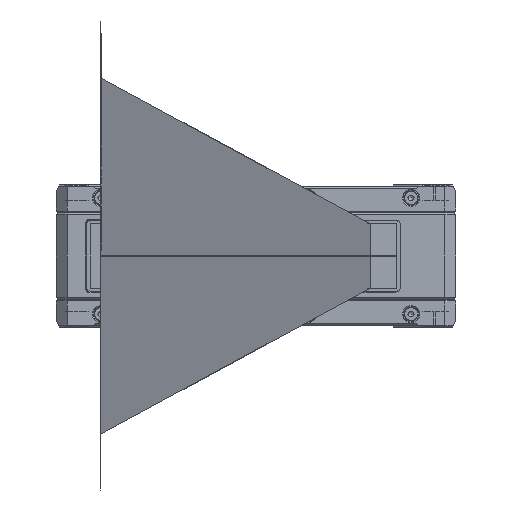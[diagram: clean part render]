
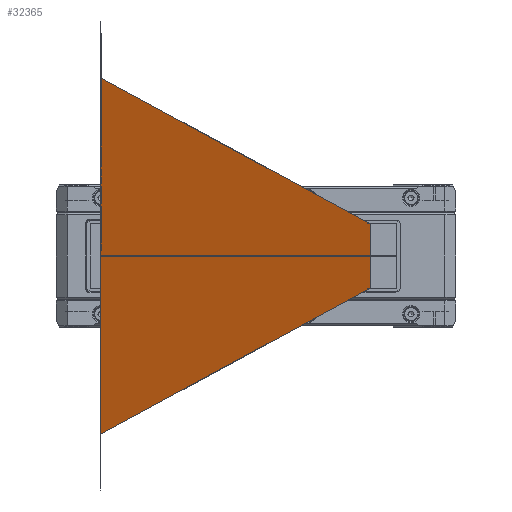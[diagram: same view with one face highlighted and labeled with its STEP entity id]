
A CAD part, front view. The second image highlights one B-rep face of the part: STEP entity #32365.
In plain terms, the highlighted planar face has unit normal (0.963, -0.269, 0).
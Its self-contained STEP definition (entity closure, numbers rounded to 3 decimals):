
#2804 = ORIENTED_EDGE ( 'NONE', *, *, #103292, .T. ) ;
#7891 = LINE ( 'NONE', #137065, #18788 ) ;
#7978 = EDGE_LOOP ( 'NONE', ( #65368, #35013, #168499, #2804, #47742, #40443, #183316, #163887 ) ) ;
#11122 = DIRECTION ( 'NONE',  ( 0., 0., -1. ) ) ;
#12327 = CARTESIAN_POINT ( 'NONE',  ( 32.005, -11., 8.975 ) ) ;
#18788 = VECTOR ( 'NONE', #184267, 1000. ) ;
#20196 = CARTESIAN_POINT ( 'NONE',  ( -43.495, -281.001, 0.005 ) ) ;
#32365 = ADVANCED_FACE ( 'NONE', ( #104705 ), #32402, .T. ) ;
#32402 = PLANE ( 'NONE',  #104590 ) ;
#35013 = ORIENTED_EDGE ( 'NONE', *, *, #146232, .T. ) ;
#37828 = VERTEX_POINT ( 'NONE', #12327 ) ;
#39550 = EDGE_CURVE ( 'NONE', #140832, #79803, #183719, .T. ) ;
#40443 = ORIENTED_EDGE ( 'NONE', *, *, #57268, .T. ) ;
#40523 = CARTESIAN_POINT ( 'NONE',  ( -43.495, -281.001, -0.005 ) ) ;
#42873 = VERTEX_POINT ( 'NONE', #152682 ) ;
#43000 = DIRECTION ( 'NONE',  ( 0.269, 0.963, 0. ) ) ;
#44876 = CARTESIAN_POINT ( 'NONE',  ( 32.005, -11., 0. ) ) ;
#47742 = ORIENTED_EDGE ( 'NONE', *, *, #101135, .F. ) ;
#50279 = EDGE_CURVE ( 'NONE', #189611, #42873, #186368, .T. ) ;
#52616 = EDGE_CURVE ( 'NONE', #37828, #189611, #143121, .T. ) ;
#54232 = CARTESIAN_POINT ( 'NONE',  ( 29.684, -19.301, 0.005 ) ) ;
#57268 = EDGE_CURVE ( 'NONE', #140008, #112091, #188299, .T. ) ;
#65368 = ORIENTED_EDGE ( 'NONE', *, *, #52616, .F. ) ;
#67744 = DIRECTION ( 'NONE',  ( -0.269, -0.963, 0. ) ) ;
#70967 = CARTESIAN_POINT ( 'NONE',  ( 32.005, -11., -8.975 ) ) ;
#71510 = CARTESIAN_POINT ( 'NONE',  ( -43.496, -281.003, -50. ) ) ;
#73832 = CARTESIAN_POINT ( 'NONE',  ( 32.005, -11., 0.005 ) ) ;
#76608 = DIRECTION ( 'NONE',  ( 0.963, -0.269, 0. ) ) ;
#79803 = VERTEX_POINT ( 'NONE', #71510 ) ;
#97298 = VERTEX_POINT ( 'NONE', #70967 ) ;
#98235 = LINE ( 'NONE', #20196, #133144 ) ;
#101135 = EDGE_CURVE ( 'NONE', #140008, #97298, #176875, .T. ) ;
#102741 = CARTESIAN_POINT ( 'NONE',  ( 29.684, -19.301, 0. ) ) ;
#103292 = EDGE_CURVE ( 'NONE', #79803, #97298, #130950, .T. ) ;
#103683 = DIRECTION ( 'NONE',  ( 0., 0., -1. ) ) ;
#104590 = AXIS2_PLACEMENT_3D ( 'NONE', #102741, #76608, #43000 ) ;
#104705 = FACE_OUTER_BOUND ( 'NONE', #7978, .T. ) ;
#109538 = DIRECTION ( 'NONE',  ( 0., 0., -1. ) ) ;
#112091 = VERTEX_POINT ( 'NONE', #40523 ) ;
#113174 = DIRECTION ( 'NONE',  ( -0.269, -0.963, 0. ) ) ;
#113203 = CARTESIAN_POINT ( 'NONE',  ( 29.684, -19.301, -0.005 ) ) ;
#118721 = VECTOR ( 'NONE', #109538, 1000. ) ;
#123890 = DIRECTION ( 'NONE',  ( 0.266, 0.953, 0.145 ) ) ;
#125764 = EDGE_CURVE ( 'NONE', #42873, #112091, #98235, .T. ) ;
#129645 = CARTESIAN_POINT ( 'NONE',  ( 32.005, -11., 0. ) ) ;
#130950 = LINE ( 'NONE', #169061, #142051 ) ;
#133144 = VECTOR ( 'NONE', #155978, 1000. ) ;
#137065 = CARTESIAN_POINT ( 'NONE',  ( -43.496, -281.003, 50. ) ) ;
#137432 = CARTESIAN_POINT ( 'NONE',  ( -43.496, -281.003, 50. ) ) ;
#140008 = VERTEX_POINT ( 'NONE', #166242 ) ;
#140832 = VERTEX_POINT ( 'NONE', #137432 ) ;
#142051 = VECTOR ( 'NONE', #123890, 1000. ) ;
#143121 = LINE ( 'NONE', #129645, #184950 ) ;
#146232 = EDGE_CURVE ( 'NONE', #37828, #140832, #7891, .T. ) ;
#152682 = CARTESIAN_POINT ( 'NONE',  ( -43.495, -281.001, 0.005 ) ) ;
#154124 = VECTOR ( 'NONE', #103683, 1000. ) ;
#155621 = CARTESIAN_POINT ( 'NONE',  ( -43.496, -281.003, -50. ) ) ;
#155978 = DIRECTION ( 'NONE',  ( 0., 0., -1. ) ) ;
#163887 = ORIENTED_EDGE ( 'NONE', *, *, #50279, .F. ) ;
#166242 = CARTESIAN_POINT ( 'NONE',  ( 32.005, -11., -0.005 ) ) ;
#167878 = VECTOR ( 'NONE', #67744, 1000. ) ;
#168499 = ORIENTED_EDGE ( 'NONE', *, *, #39550, .T. ) ;
#169061 = CARTESIAN_POINT ( 'NONE',  ( -43.496, -281.003, -50. ) ) ;
#176875 = LINE ( 'NONE', #44876, #154124 ) ;
#183316 = ORIENTED_EDGE ( 'NONE', *, *, #125764, .F. ) ;
#183719 = LINE ( 'NONE', #155621, #118721 ) ;
#184267 = DIRECTION ( 'NONE',  ( -0.266, -0.953, 0.145 ) ) ;
#184950 = VECTOR ( 'NONE', #11122, 1000. ) ;
#186368 = LINE ( 'NONE', #54232, #189099 ) ;
#188299 = LINE ( 'NONE', #113203, #167878 ) ;
#189099 = VECTOR ( 'NONE', #113174, 1000. ) ;
#189611 = VERTEX_POINT ( 'NONE', #73832 ) ;
